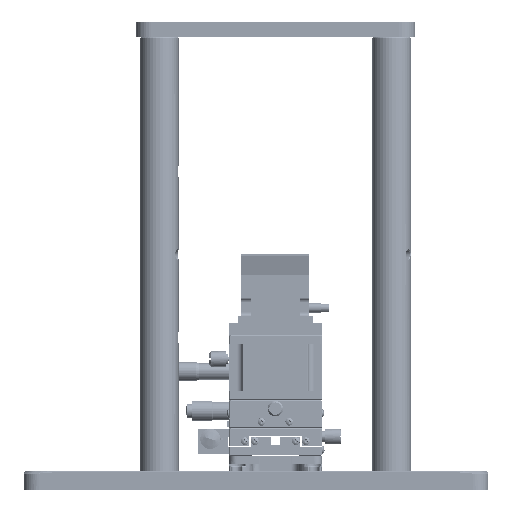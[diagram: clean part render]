
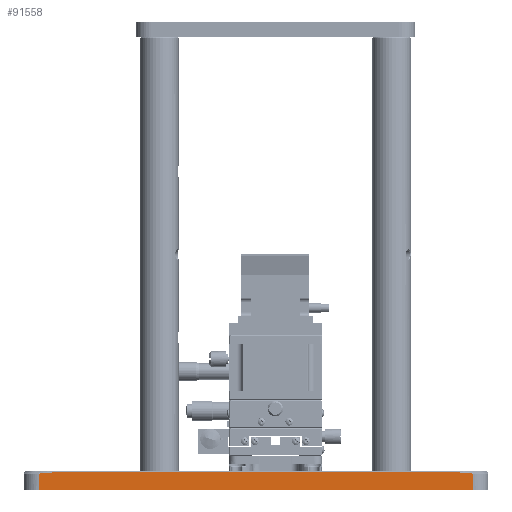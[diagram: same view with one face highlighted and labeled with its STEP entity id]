
A CAD part, front view. The second image highlights one B-rep face of the part: STEP entity #91558.
In plain terms, the highlighted planar face has unit normal (0, -1, 0) as drawn and (-1, 0, 0) by its records, which use the part's own axes.
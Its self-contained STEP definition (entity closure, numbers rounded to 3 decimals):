
#396 = DIRECTION ( 'NONE',  ( 0., 0., 1. ) ) ;
#583 = VECTOR ( 'NONE', #396, 1000. ) ;
#1514 = CARTESIAN_POINT ( 'NONE',  ( -150., 11.351, -133.343 ) ) ;
#2449 = CARTESIAN_POINT ( 'NONE',  ( -150., 12., 150. ) ) ;
#3369 = VERTEX_POINT ( 'NONE', #23939 ) ;
#5041 = ORIENTED_EDGE ( 'NONE', *, *, #16727, .F. ) ;
#5052 = DIRECTION ( 'NONE',  ( 0., -1., 0. ) ) ;
#8425 = CARTESIAN_POINT ( 'NONE',  ( -150., 11.173, -135.444 ) ) ;
#9335 = FACE_OUTER_BOUND ( 'NONE', #17552, .T. ) ;
#9603 = CARTESIAN_POINT ( 'NONE',  ( -150., 11.33, 133.329 ) ) ;
#11941 = CARTESIAN_POINT ( 'NONE',  ( -150., 11.291, 133.954 ) ) ;
#12448 = CARTESIAN_POINT ( 'NONE',  ( -150., 12., -140. ) ) ;
#15818 = CARTESIAN_POINT ( 'NONE',  ( -150., 11.423, -131.678 ) ) ;
#16727 = EDGE_CURVE ( 'NONE', #78715, #54051, #88408, .T. ) ;
#17260 = CARTESIAN_POINT ( 'NONE',  ( -150., 11.144, -135.753 ) ) ;
#17552 = EDGE_LOOP ( 'NONE', ( #71651, #25103, #5041, #84532, #96403, #80045 ) ) ;
#17593 = LINE ( 'NONE', #67896, #583 ) ;
#18278 = EDGE_CURVE ( 'NONE', #78715, #57495, #48928, .T. ) ;
#18673 = PLANE ( 'NONE',  #79600 ) ;
#19305 = CARTESIAN_POINT ( 'NONE',  ( -150., 11.405, 131.665 ) ) ;
#22079 = EDGE_CURVE ( 'NONE', #3369, #31424, #73751, .T. ) ;
#23939 = CARTESIAN_POINT ( 'NONE',  ( -150., 0., 140. ) ) ;
#24364 = CARTESIAN_POINT ( 'NONE',  ( -150., 11.423, 130. ) ) ;
#25103 = ORIENTED_EDGE ( 'NONE', *, *, #65766, .F. ) ;
#30624 = CARTESIAN_POINT ( 'NONE',  ( -150., 10.727, -139.165 ) ) ;
#31424 = VERTEX_POINT ( 'NONE', #43463 ) ;
#34118 = CARTESIAN_POINT ( 'NONE',  ( -150., 11.423, 130.835 ) ) ;
#37746 = CARTESIAN_POINT ( 'NONE',  ( -150., 0., -140. ) ) ;
#38058 = EDGE_CURVE ( 'NONE', #40721, #31424, #67179, .T. ) ;
#39392 = DIRECTION ( 'NONE',  ( 1., 0., 0. ) ) ;
#39666 = CARTESIAN_POINT ( 'NONE',  ( -150., 11.072, 136.661 ) ) ;
#40721 = VERTEX_POINT ( 'NONE', #24364 ) ;
#43463 = CARTESIAN_POINT ( 'NONE',  ( -150., 10.591, 140. ) ) ;
#48928 = LINE ( 'NONE', #12448, #95568 ) ;
#54051 = VERTEX_POINT ( 'NONE', #85253 ) ;
#54726 = CARTESIAN_POINT ( 'NONE',  ( -150., 11.048, -136.682 ) ) ;
#56756 = CARTESIAN_POINT ( 'NONE',  ( -150., 11.276, 134.163 ) ) ;
#57257 = CARTESIAN_POINT ( 'NONE',  ( -150., 11.423, 130. ) ) ;
#57495 = VERTEX_POINT ( 'NONE', #37746 ) ;
#59573 = VECTOR ( 'NONE', #66852, 1000. ) ;
#60682 = CARTESIAN_POINT ( 'NONE',  ( -150., 11.423, -130. ) ) ;
#60850 = LINE ( 'NONE', #74156, #66069 ) ;
#62344 = CARTESIAN_POINT ( 'NONE',  ( -150., 11.246, 134.58 ) ) ;
#65766 = EDGE_CURVE ( 'NONE', #54051, #40721, #17593, .T. ) ;
#66069 = VECTOR ( 'NONE', #88934, 1000. ) ;
#66852 = DIRECTION ( 'NONE',  ( 0., 1., 0. ) ) ;
#67179 = B_SPLINE_CURVE_WITH_KNOTS ( 'NONE', 3,
 ( #57257, #34118, #19305, #77078, #9603, #11941, #56756, #62344, #87263, #39666, #69721, #72044 ),
 .UNSPECIFIED., .F., .F.,
 ( 4, 2, 2, 2, 2, 4 ),
 ( 0., 0.25, 0.375, 0.438, 0.5, 1. ),
 .UNSPECIFIED. ) ;
#67896 = CARTESIAN_POINT ( 'NONE',  ( -150., 11.423, 150. ) ) ;
#69019 = CARTESIAN_POINT ( 'NONE',  ( -150., 10.591, -140. ) ) ;
#69440 = DIRECTION ( 'NONE',  ( 0., 1., 0. ) ) ;
#69721 = CARTESIAN_POINT ( 'NONE',  ( -150., 10.865, 138.318 ) ) ;
#71651 = ORIENTED_EDGE ( 'NONE', *, *, #38058, .F. ) ;
#72044 = CARTESIAN_POINT ( 'NONE',  ( -150., 10.591, 140. ) ) ;
#73751 = LINE ( 'NONE', #81605, #59573 ) ;
#74156 = CARTESIAN_POINT ( 'NONE',  ( -150., 0., 150. ) ) ;
#75426 = CARTESIAN_POINT ( 'NONE',  ( -150., 11.113, -136.063 ) ) ;
#77078 = CARTESIAN_POINT ( 'NONE',  ( -150., 11.352, 132.913 ) ) ;
#78715 = VERTEX_POINT ( 'NONE', #95506 ) ;
#79600 = AXIS2_PLACEMENT_3D ( 'NONE', #2449, #39392, #69440 ) ;
#80045 = ORIENTED_EDGE ( 'NONE', *, *, #22079, .T. ) ;
#81605 = CARTESIAN_POINT ( 'NONE',  ( -150., 12., 140. ) ) ;
#82818 = CARTESIAN_POINT ( 'NONE',  ( -150., 10.847, -138.336 ) ) ;
#83265 = CARTESIAN_POINT ( 'NONE',  ( -150., 11.001, -137.095 ) ) ;
#83597 = EDGE_CURVE ( 'NONE', #57495, #3369, #60850, .T. ) ;
#84532 = ORIENTED_EDGE ( 'NONE', *, *, #18278, .T. ) ;
#85253 = CARTESIAN_POINT ( 'NONE',  ( -150., 11.423, -130. ) ) ;
#87263 = CARTESIAN_POINT ( 'NONE',  ( -150., 11.229, 134.791 ) ) ;
#88408 = B_SPLINE_CURVE_WITH_KNOTS ( 'NONE', 3,
 ( #69019, #30624, #82818, #83265, #54726, #75426, #17260, #8425, #91165, #92147, #1514, #15818, #60682 ),
 .UNSPECIFIED., .F., .F.,
 ( 4, 2, 2, 1, 2, 2, 4 ),
 ( 0., 0.25, 0.375, 0.438, 0.469, 0.5, 1. ),
 .UNSPECIFIED. ) ;
#88934 = DIRECTION ( 'NONE',  ( 0., 0., 1. ) ) ;
#91165 = CARTESIAN_POINT ( 'NONE',  ( -150., 11.191, -135.237 ) ) ;
#91558 = ADVANCED_FACE ( 'NONE', ( #9335 ), #18673, .F. ) ;
#92147 = CARTESIAN_POINT ( 'NONE',  ( -150., 11.2, -135.136 ) ) ;
#95506 = CARTESIAN_POINT ( 'NONE',  ( -150., 10.591, -140. ) ) ;
#95568 = VECTOR ( 'NONE', #5052, 1000. ) ;
#96403 = ORIENTED_EDGE ( 'NONE', *, *, #83597, .T. ) ;
